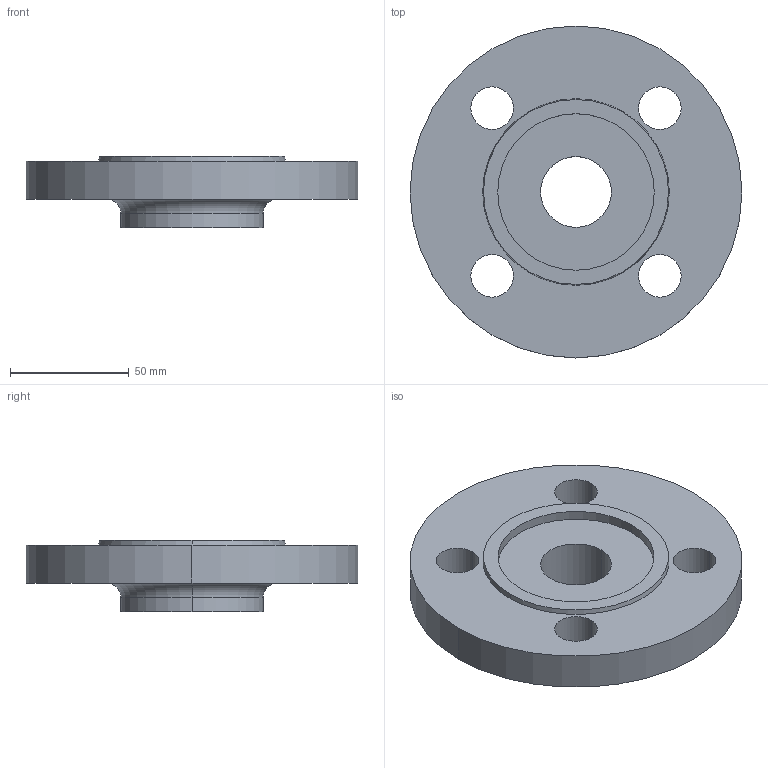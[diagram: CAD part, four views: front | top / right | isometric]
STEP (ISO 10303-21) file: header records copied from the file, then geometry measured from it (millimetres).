
FILE_DESCRIPTION (( 'STEP AP214' ), '1' );
FILE_NAME ('PN40 DN32 Type 13 - Type F Face.STEP', '2018-12-29T23:53:21', ( '' ), ( '' ), 'SwSTEP 2.0', 'SolidWorks 2019', '' );
FILE_SCHEMA (( 'AUTOMOTIVE_DESIGN' ));
Length unit declared in the file: millimetre
Products named in the file (1): PN40 DN32 Type 13 - Type F Face
Bounding box: 140 x 140 x 30 mm (x, y, z)
Volume: 243247.3 mm3; surface area: 43481.9 mm2
Topology: 1 solids, 1 shells, 25 faces, 58 edges, 38 vertices
Faces by surface type: cylinder 16, plane 5, torus 2, cone 2
Entity records: 790 total; most frequent: DIRECTION 150, CARTESIAN_POINT 122, ORIENTED_EDGE 116, AXIS2_PLACEMENT_3D 66, EDGE_CURVE 58, CIRCLE 40, EDGE_LOOP 38, VERTEX_POINT 38
